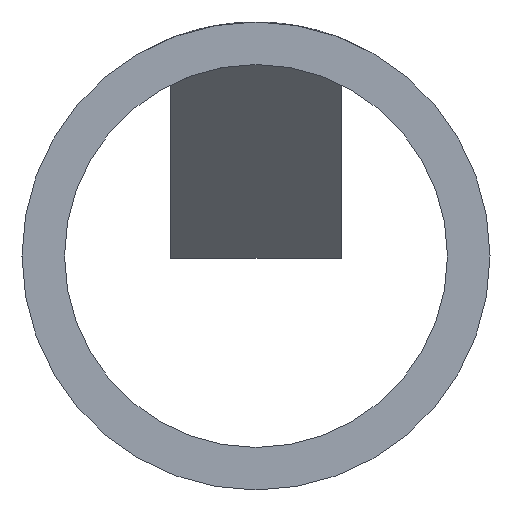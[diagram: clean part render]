
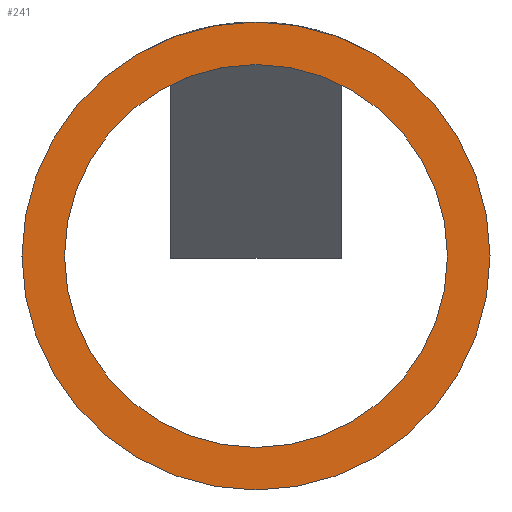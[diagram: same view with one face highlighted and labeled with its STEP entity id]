
A CAD part, front view. The second image highlights one B-rep face of the part: STEP entity #241.
In plain terms, the highlighted planar face has unit normal (0, -1, 0).
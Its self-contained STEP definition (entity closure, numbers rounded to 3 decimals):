
#21 = EDGE_CURVE ( 'NONE', #200, #202, #359, .T. ) ;
#25 = AXIS2_PLACEMENT_3D ( 'NONE', #147, #144, #143 ) ;
#29 = AXIS2_PLACEMENT_3D ( 'NONE', #171, #153, #152 ) ;
#53 = AXIS2_PLACEMENT_3D ( 'NONE', #209, #213, #214 ) ;
#54 = AXIS2_PLACEMENT_3D ( 'NONE', #151, #132, #131 ) ;
#64 = AXIS2_PLACEMENT_3D ( 'NONE', #471, #468, #467 ) ;
#68 = EDGE_CURVE ( 'NONE', #189, #187, #265, .T. ) ;
#72 = EDGE_CURVE ( 'NONE', #187, #189, #315, .T. ) ;
#76 = EDGE_CURVE ( 'NONE', #202, #200, #282, .T. ) ;
#93 = CARTESIAN_POINT ( 'NONE',  ( 5.5, 0., 0. ) ) ;
#95 = CARTESIAN_POINT ( 'NONE',  ( -5.5, 0., 0. ) ) ;
#104 = CARTESIAN_POINT ( 'NONE',  ( -4.5, 0., 0. ) ) ;
#106 = CARTESIAN_POINT ( 'NONE',  ( 4.5, 0., 0. ) ) ;
#131 = DIRECTION ( 'NONE',  ( -1., 0., 0. ) ) ;
#132 = DIRECTION ( 'NONE',  ( 0., -1., 0. ) ) ;
#143 = DIRECTION ( 'NONE',  ( -1., 0., 0. ) ) ;
#144 = DIRECTION ( 'NONE',  ( 0., -1., 0. ) ) ;
#147 = CARTESIAN_POINT ( 'NONE',  ( 0., 0., 0. ) ) ;
#151 = CARTESIAN_POINT ( 'NONE',  ( 0., 0., 0. ) ) ;
#152 = DIRECTION ( 'NONE',  ( -1., 0., 0. ) ) ;
#153 = DIRECTION ( 'NONE',  ( 0., -1., 0. ) ) ;
#171 = CARTESIAN_POINT ( 'NONE',  ( 0., 0., 0. ) ) ;
#187 = VERTEX_POINT ( 'NONE', #106 ) ;
#189 = VERTEX_POINT ( 'NONE', #104 ) ;
#200 = VERTEX_POINT ( 'NONE', #95 ) ;
#202 = VERTEX_POINT ( 'NONE', #93 ) ;
#209 = CARTESIAN_POINT ( 'NONE',  ( 0., 0., 0. ) ) ;
#213 = DIRECTION ( 'NONE',  ( 0., -1., 0. ) ) ;
#214 = DIRECTION ( 'NONE',  ( -1., 0., 0. ) ) ;
#241 = ADVANCED_FACE ( 'NONE', ( #294, #312 ), #470, .T. ) ;
#265 = CIRCLE ( 'NONE', #29, 4.5 ) ;
#282 = CIRCLE ( 'NONE', #54, 5.5 ) ;
#294 = FACE_OUTER_BOUND ( 'NONE', #344, .T. ) ;
#312 = FACE_BOUND ( 'NONE', #328, .T. ) ;
#315 = CIRCLE ( 'NONE', #25, 4.5 ) ;
#328 = EDGE_LOOP ( 'NONE', ( #373, #409 ) ) ;
#344 = EDGE_LOOP ( 'NONE', ( #422, #416 ) ) ;
#359 = CIRCLE ( 'NONE', #53, 5.5 ) ;
#373 = ORIENTED_EDGE ( 'NONE', *, *, #72, .F. ) ;
#409 = ORIENTED_EDGE ( 'NONE', *, *, #68, .F. ) ;
#416 = ORIENTED_EDGE ( 'NONE', *, *, #21, .T. ) ;
#422 = ORIENTED_EDGE ( 'NONE', *, *, #76, .T. ) ;
#467 = DIRECTION ( 'NONE',  ( -1., 0., 0. ) ) ;
#468 = DIRECTION ( 'NONE',  ( 0., -1., 0. ) ) ;
#470 = PLANE ( 'NONE',  #64 ) ;
#471 = CARTESIAN_POINT ( 'NONE',  ( 0., 0., 0. ) ) ;
